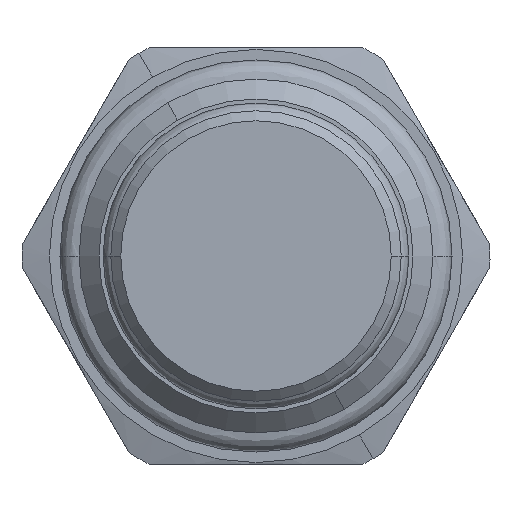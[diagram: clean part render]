
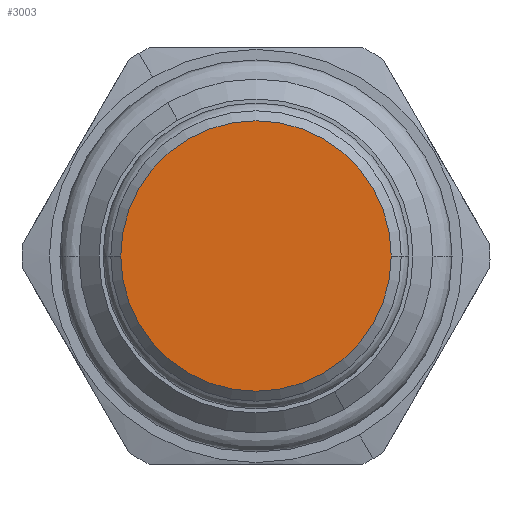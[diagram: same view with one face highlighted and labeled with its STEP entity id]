
A CAD part, front view. The second image highlights one B-rep face of the part: STEP entity #3003.
In plain terms, the highlighted planar face has unit normal (0, -1, 0).
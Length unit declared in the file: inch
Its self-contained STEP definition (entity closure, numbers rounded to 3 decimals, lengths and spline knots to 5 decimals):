
#1058=CARTESIAN_POINT('',(0.,-1.8125,0.));
#1059=DIRECTION('',(0.,-1.,0.));
#1060=DIRECTION('',(-1.,0.,0.));
#1061=AXIS2_PLACEMENT_3D('',#1058,#1059,#1060);
#1068=CARTESIAN_POINT('',(0.,-1.8125,0.));
#1069=DIRECTION('',(0.,-1.,0.));
#1070=DIRECTION('',(1.,0.,0.));
#1071=AXIS2_PLACEMENT_3D('',#1068,#1069,#1070);
#1403=CARTESIAN_POINT('',(-0.406,-1.8125,0.));
#1404=CARTESIAN_POINT('',(0.406,-1.8125,0.));
#1405=VERTEX_POINT('',#1403);
#1406=VERTEX_POINT('',#1404);
#2993=CARTESIAN_POINT('',(0.,-1.8125,0.));
#2994=DIRECTION('',(0.,-1.,0.));
#2995=DIRECTION('',(1.,0.,0.));
#2996=AXIS2_PLACEMENT_3D('',#2993,#2994,#2995);
#2997=PLANE('',#2996);
#2999=ORIENTED_EDGE('',*,*,#2998,.F.);
#3000=ORIENTED_EDGE('',*,*,#2983,.F.);
#3001=EDGE_LOOP('',(#2999,#3000));
#3002=FACE_OUTER_BOUND('',#3001,.F.);
#3003=ADVANCED_FACE('',(#3002),#2997,.T.);
#1062=CIRCLE('',#1061,0.406);
#1072=CIRCLE('',#1071,0.406);
#2983=EDGE_CURVE('',#1405,#1406,#1062,.T.);
#2998=EDGE_CURVE('',#1406,#1405,#1072,.T.);
